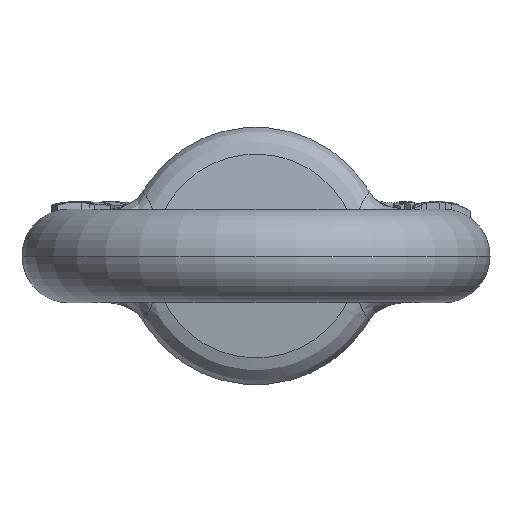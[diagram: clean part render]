
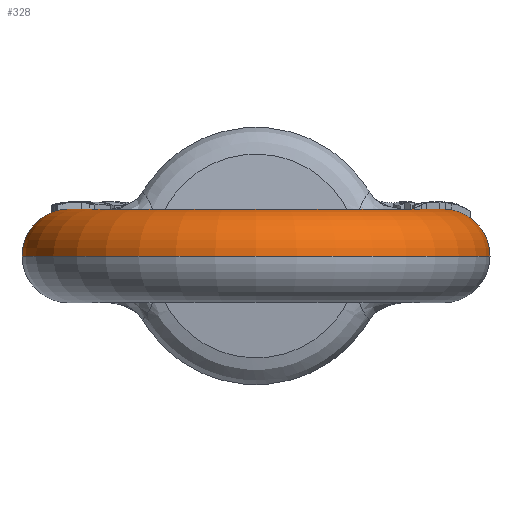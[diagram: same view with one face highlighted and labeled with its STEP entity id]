
A CAD part, front view. The second image highlights one B-rep face of the part: STEP entity #328.
In plain terms, the highlighted toroidal (fillet/blend) face has major radius 12.725 mm and minor radius 3.175 mm.
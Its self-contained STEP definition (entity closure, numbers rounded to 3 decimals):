
#328=ADVANCED_FACE('',(#895),#896,.T.);
#895=FACE_OUTER_BOUND('',#6525,.T.);
#896=TOROIDAL_SURFACE('',#6526,12.725,3.175);
#6525=EDGE_LOOP('',(#12758,#12759,#12760,#12761));
#6526=AXIS2_PLACEMENT_3D('',#12762,#12763,#12764);
#12758=ORIENTED_EDGE('',*,*,#13865,.F.);
#12759=ORIENTED_EDGE('',*,*,#13866,.F.);
#12760=ORIENTED_EDGE('',*,*,#13867,.F.);
#12761=ORIENTED_EDGE('',*,*,#13868,.F.);
#12762=CARTESIAN_POINT('',(0.,-28.6,0.));
#12763=DIRECTION('',(0.,0.,-1.0));
#12764=DIRECTION('',(1.0,0.,0.));
#13865=EDGE_CURVE('',#15068,#15069,#15070,.T.);
#13866=EDGE_CURVE('',#15071,#15068,#15072,.T.);
#13867=EDGE_CURVE('',#15073,#15071,#15074,.T.);
#13868=EDGE_CURVE('',#15069,#15073,#15075,.T.);
#15068=VERTEX_POINT('',#20159);
#15069=VERTEX_POINT('',#20160);
#15070=CIRCLE('',#20161,15.9);
#15071=VERTEX_POINT('',#20162);
#15072=CIRCLE('',#20163,3.175);
#15073=VERTEX_POINT('',#20164);
#15074=CIRCLE('',#20165,9.55);
#15075=CIRCLE('',#20166,3.175);
#20159=CARTESIAN_POINT('',(15.9,-28.6,0.));
#20160=CARTESIAN_POINT('',(-15.9,-28.6,0.));
#20161=AXIS2_PLACEMENT_3D('',#21750,#21751,#21752);
#20162=CARTESIAN_POINT('',(9.55,-28.6,0.));
#20163=AXIS2_PLACEMENT_3D('',#21753,#21754,#21755);
#20164=CARTESIAN_POINT('',(-9.55,-28.6,0.));
#20165=AXIS2_PLACEMENT_3D('',#21756,#21757,#21758);
#20166=AXIS2_PLACEMENT_3D('',#21759,#21760,#21761);
#21750=CARTESIAN_POINT('',(0.,-28.6,0.));
#21751=DIRECTION('',(0.0,0.,-1.0));
#21752=DIRECTION('',(-1.0,0.0,0.0));
#21753=CARTESIAN_POINT('',(12.725,-28.6,0.));
#21754=DIRECTION('',(0.,1.0,0.));
#21755=DIRECTION('',(1.0,0.,0.));
#21756=CARTESIAN_POINT('',(0.,-28.6,0.));
#21757=DIRECTION('',(0.0,0.,1.0));
#21758=DIRECTION('',(-1.0,0.0,0.0));
#21759=CARTESIAN_POINT('',(-12.725,-28.6,0.));
#21760=DIRECTION('',(0.,1.0,0.));
#21761=DIRECTION('',(-1.0,0.,0.));
